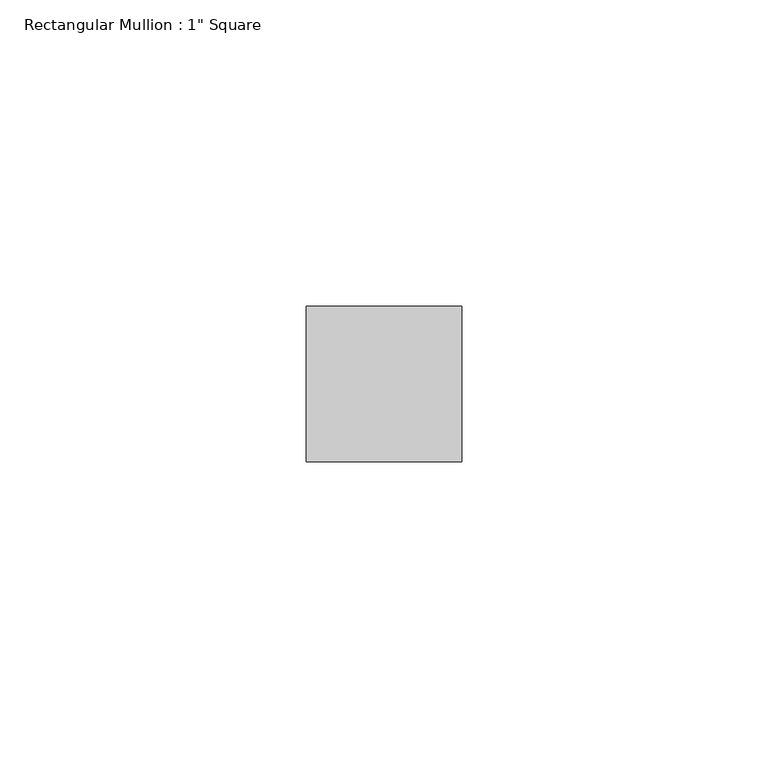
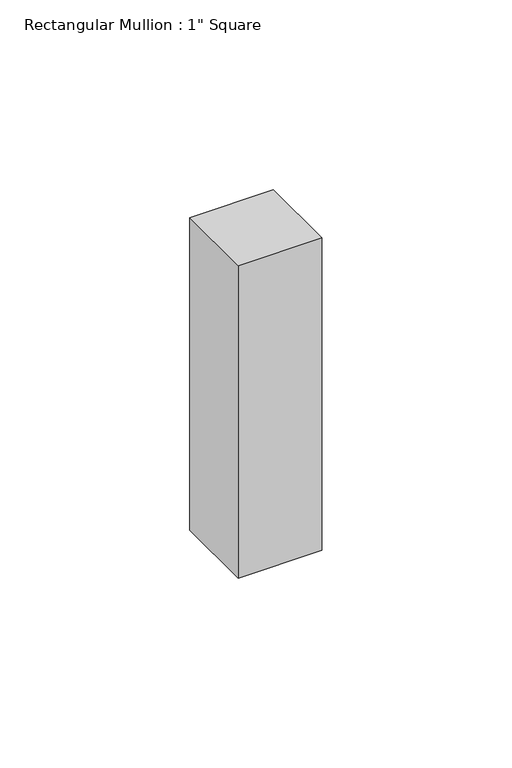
"""IFC4 building model written with IfcOpenShell, lengths in millimetres: member geometry."""

import ifcopenshell
import ifcopenshell.guid

model = None  # the IFC model being written
_history = None  # IfcOwnerHistory: only IFC2X3 demands one
_inside = {}  # id of a spatial element -> (the spatial element, [elements in it])
_under = {}  # id of a project, library or spatial element -> (it, [spatial elements below it])
_declared = {}  # id of a project -> (the project, [libraries it declares])
_typed = {}  # id of a type object -> (the type object, [elements of that type])
_made_of = {}  # id of a material, layer set ... -> (it, [elements and type objects made of it])


def new_model(schema):
    """Start an empty IFC model of exactly this schema.

    Asked for "IFC4X3", IfcOpenShell would pick the latest addendum, in which some entities
    have other attributes; the version numbers below select the first issue.
    IFC2X3 requires an IfcOwnerHistory on every rooted entity: one is made here for all.
    """
    global model, _history
    if schema == "IFC4X3":
        model = ifcopenshell.file(schema_version=(4, 3, 0, 0))
    else:
        model = ifcopenshell.file(schema=schema)
    _inside.clear()
    _under.clear()
    _declared.clear()
    _typed.clear()
    _made_of.clear()
    _history = None
    if model.schema == "IFC2X3":
        org = make("IfcOrganization", Name="unknown")
        user = make(
            "IfcPersonAndOrganization",
            ThePerson=make("IfcPerson", FamilyName="unknown"),
            TheOrganization=org,
        )
        app = make(
            "IfcApplication",
            ApplicationDeveloper=org,
            Version="unknown",
            ApplicationFullName="unknown",
            ApplicationIdentifier="unknown",
        )
        _history = make(
            "IfcOwnerHistory",
            OwningUser=user,
            OwningApplication=app,
            ChangeAction="ADDED",
            CreationDate=0,
        )
    return model


def make(cls, **values):
    """One entity of the class cls with the attributes given. An attribute that is None is left unset."""
    return model.create_entity(
        cls, **{name: value for name, value in values.items() if value is not None}
    )


def rooted(cls, **values):
    """An entity with a GlobalId (a new one), such as an element, a storey or a relation."""
    return make(cls, GlobalId=ifcopenshell.guid.new(), OwnerHistory=_history, **values)


def si_unit(unit_type, name, prefix=None):
    """IfcSIUnit, for example si_unit("LENGTHUNIT", "METRE", prefix="MILLI")."""
    return make("IfcSIUnit", UnitType=unit_type, Prefix=prefix, Name=name)


def assignment(units):
    """IfcUnitAssignment: the units of a project."""
    return None if units is None else make("IfcUnitAssignment", Units=units)


def point(xyz):
    """IfcCartesianPoint."""
    return None if xyz is None else make("IfcCartesianPoint", Coordinates=xyz)


def direction(xyz):
    """IfcDirection."""
    return None if xyz is None else make("IfcDirection", DirectionRatios=xyz)


def frame(location, z_axis=None, x_axis=None):
    """IfcAxis2Placement3D, a coordinate frame: its origin and axes. An axis left out is left unset."""
    return make(
        "IfcAxis2Placement3D",
        Location=point(location),
        Axis=direction(z_axis),
        RefDirection=direction(x_axis),
    )


def origin():
    """The frame at (0, 0, 0) with its axes left unset."""
    return frame((0.0, 0.0, 0.0))


def place(relative_to, where):
    """IfcLocalPlacement: puts the frame where relative to a parent placement (None: the world)."""
    return make(
        "IfcLocalPlacement", PlacementRelTo=relative_to, RelativePlacement=where
    )


def context(
    kind, dimensions, precision=None, world=None, true_north=None, identifier=None
):
    """IfcGeometricRepresentationContext, for example the 3D "Model" context."""
    return make(
        "IfcGeometricRepresentationContext",
        ContextIdentifier=identifier,
        ContextType=kind,
        CoordinateSpaceDimension=dimensions,
        Precision=precision,
        WorldCoordinateSystem=world,
        TrueNorth=true_north,
    )


def project(units=None, contexts=None):
    """IfcProject with its units and contexts."""
    return rooted(
        "IfcProject",
        Name="project",
        RepresentationContexts=contexts,
        UnitsInContext=assignment(units),
    )


def spatial(cls, under=None, at=None, **own):
    """A site, building, storey or space (cls), placed at a placement, below another one or the project."""
    s = rooted(cls, ObjectPlacement=at, **own)
    if under is not None:
        _under.setdefault(under.id(), (under, []))[1].append(s)
    return s


def polyline(points):
    """IfcPolyline through the points."""
    return make("IfcPolyline", Points=[point(p) for p in points])


def outline(outer, holes=None, kind="AREA"):
    """IfcArbitraryClosedProfileDef: a profile drawn as a closed curve; with holes, ...WithVoids."""
    if holes is None:
        return make("IfcArbitraryClosedProfileDef", ProfileType=kind, OuterCurve=outer)
    return make(
        "IfcArbitraryProfileDefWithVoids",
        ProfileType=kind,
        OuterCurve=outer,
        InnerCurves=holes,
    )


def extrude(swept, where, along, depth):
    """IfcExtrudedAreaSolid: the profile swept, set in the frame where, extruded along a direction by depth."""
    return make(
        "IfcExtrudedAreaSolid",
        SweptArea=swept,
        Position=where,
        ExtrudedDirection=direction(along),
        Depth=depth,
    )


def shape(context_of_items, identifier, shape_type, items):
    """IfcShapeRepresentation: the items that make up one representation, for example the "Body"."""
    return make(
        "IfcShapeRepresentation",
        ContextOfItems=context_of_items,
        RepresentationIdentifier=identifier,
        RepresentationType=shape_type,
        Items=items,
    )


def source(mapping_origin, context_of_items, identifier, shape_type, items):
    """IfcRepresentationMap: a shape defined once, which mapped items show again and again."""
    return make(
        "IfcRepresentationMap",
        MappingOrigin=mapping_origin,
        MappedRepresentation=shape(context_of_items, identifier, shape_type, items),
    )


def transform(
    local_origin,
    x_axis=None,
    y_axis=None,
    z_axis=None,
    scale=None,
    scale2=None,
    scale3=None,
    uniform=True,
):
    """IfcCartesianTransformationOperator3D, or its non-uniform kind. x_axis, y_axis, z_axis: its Axis1, 2, 3."""
    if uniform:
        return make(
            "IfcCartesianTransformationOperator3D",
            Axis1=direction(x_axis),
            Axis2=direction(y_axis),
            LocalOrigin=point(local_origin),
            Scale=scale,
            Axis3=direction(z_axis),
        )
    return make(
        "IfcCartesianTransformationOperator3DnonUniform",
        Axis1=direction(x_axis),
        Axis2=direction(y_axis),
        LocalOrigin=point(local_origin),
        Scale=scale,
        Axis3=direction(z_axis),
        Scale2=scale2,
        Scale3=scale3,
    )


def mapped(mapping_source, mapping_target):
    """IfcMappedItem: shows the shape of a source again, moved by a transform."""
    return make(
        "IfcMappedItem", MappingSource=mapping_source, MappingTarget=mapping_target
    )


def made_of(thing, what):
    """Note that an element or type object is made of a material, layer set ...; save() writes the relation."""
    if what is not None:
        _made_of.setdefault(what.id(), (what, []))[1].append(thing)
    return thing


def element(
    cls,
    number,
    at=None,
    inside=None,
    cuts=None,
    type_object=None,
    material=None,
    context=None,
    identifier="Body",
    shape_type=None,
    held_by="IfcProductDefinitionShape",
    body=None,
    shapes=None,
    **own,
):
    """One element of the class cls, such as IfcWall. Its Tag is "e" and its number.

    at: its placement. inside: the storey or other place that contains it. cuts: it is an
    opening in that element (IfcRelVoidsElement). A single representation is given by context,
    identifier, shape_type and body (its items); several are given by shapes. held_by: the class
    of the entity that holds the representations. save() writes the other relations.
    """
    e = rooted(cls, Tag="e%d" % number, ObjectPlacement=at, **own)
    if body is not None:
        shapes = [shape(context, identifier, shape_type, body)]
    if shapes is not None:
        e.Representation = make(held_by, Representations=shapes)
    if inside is not None:
        _inside.setdefault(inside.id(), (inside, []))[1].append(e)
    if cuts is not None:
        rooted(
            "IfcRelVoidsElement", RelatingBuildingElement=cuts, RelatedOpeningElement=e
        )
    if type_object is not None:
        _typed.setdefault(type_object.id(), (type_object, []))[1].append(e)
    return made_of(e, material)


def aggregate(whole, parts):
    """IfcRelAggregates: a whole, such as a stair, and the parts it consists of."""
    return rooted("IfcRelAggregates", RelatingObject=whole, RelatedObjects=parts)


def save(model, path):
    """Write the relations noted so far, then the file.

    IfcRelAggregates (storeys below a building ...), IfcRelContainedInSpatialStructure (elements
    in a storey), IfcRelDefinesByType, IfcRelAssociatesMaterial and IfcRelDeclares: one each for
    every whole, place, type object, material and project.
    """
    for whole, parts in _under.values():
        aggregate(whole, parts)
    for where, things in _inside.values():
        rooted(
            "IfcRelContainedInSpatialStructure",
            RelatedElements=things,
            RelatingStructure=where,
        )
    for kind, things in _typed.values():
        rooted("IfcRelDefinesByType", RelatedObjects=things, RelatingType=kind)
    for what, things in _made_of.values():
        rooted("IfcRelAssociatesMaterial", RelatedObjects=things, RelatingMaterial=what)
    for by, libraries in _declared.values():
        rooted("IfcRelDeclares", RelatingContext=by, RelatedDefinitions=libraries)
    model.write(path)


def member_eca8a4a2(model_context):
    return source(origin(), model_context, "Body", "SweptSolid", [
        extrude(outline(polyline([(12.7, 12.7), (12.7, -12.7), (-12.7, -12.7), (-12.7, 12.7), (12.7, 12.7)])), frame((0.0, 0.0, -100.4541827), z_axis=(0.0, 0.0, 1.0), x_axis=(1.0, 0.0, 0.0)), (0.0, 0.0, 1.0), 100.4541827),
    ])


if __name__ == "__main__":
    model = new_model("IFC4")
    model_context = context("Model", 3, world=origin())
    ifc_project = project(units=[si_unit("LENGTHUNIT", "METRE", prefix="MILLI")], contexts=[model_context])
    site = spatial("IfcSite", under=ifc_project)
    building = spatial("IfcBuilding", under=site)
    placement = place(None, origin())
    member_shape = member_eca8a4a2(model_context)
    element("IfcMember", 1, ObjectType="Rectangular Mullion : 1\" Square", at=placement, inside=building, context=model_context, shape_type="MappedRepresentation", body=[
        mapped(member_shape, transform((0.0, 0.0, 0.0), x_axis=(1.0, 0.0, 0.0), y_axis=(0.0, 1.0, 0.0), z_axis=(0.0, 0.0, 1.0))),
    ])
    save(model, "model.ifc")
